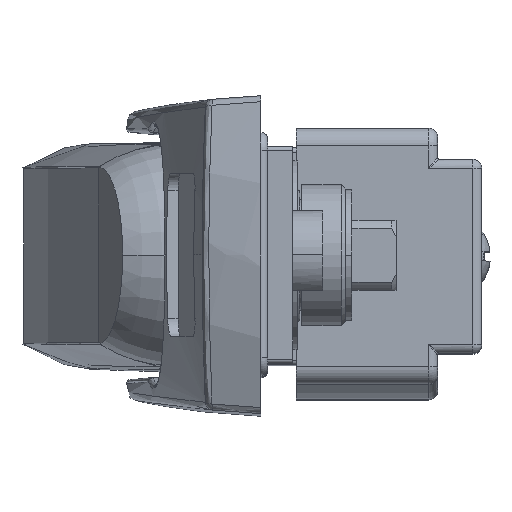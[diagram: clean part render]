
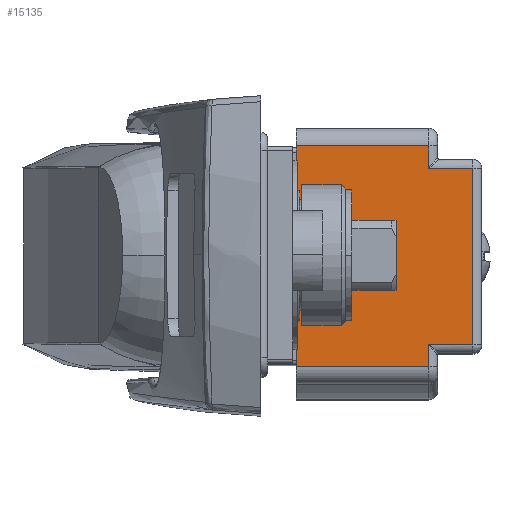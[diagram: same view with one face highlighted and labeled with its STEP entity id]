
A CAD part, top view. The second image highlights one B-rep face of the part: STEP entity #15135.
In plain terms, the highlighted planar face has unit normal (0, 0, 1) as drawn and (-1, 0, 0) by its records, which use the part's own axes.
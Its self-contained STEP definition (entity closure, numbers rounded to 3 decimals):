
#363 = EDGE_CURVE ( 'NONE', #1784, #15096, #2884, .T. ) ;
#983 = CARTESIAN_POINT ( 'NONE',  ( -27.3, -9.15, 16. ) ) ;
#1371 = EDGE_CURVE ( 'NONE', #24375, #19018, #5930, .T. ) ;
#1412 = DIRECTION ( 'NONE',  ( 0., 1., 0. ) ) ;
#1679 = EDGE_CURVE ( 'NONE', #19018, #1784, #19681, .T. ) ;
#1784 = VERTEX_POINT ( 'NONE', #12605 ) ;
#2005 = VERTEX_POINT ( 'NONE', #5707 ) ;
#2884 = LINE ( 'NONE', #25073, #3119 ) ;
#2909 = EDGE_CURVE ( 'NONE', #11069, #26153, #10286, .T. ) ;
#3102 = EDGE_CURVE ( 'NONE', #11069, #2005, #10233, .T. ) ;
#3119 = VECTOR ( 'NONE', #23969, 1000. ) ;
#4087 = EDGE_CURVE ( 'NONE', #2005, #14110, #22731, .T. ) ;
#4392 = ORIENTED_EDGE ( 'NONE', *, *, #1679, .T. ) ;
#4419 = EDGE_CURVE ( 'NONE', #14110, #24375, #18349, .T. ) ;
#4880 = ORIENTED_EDGE ( 'NONE', *, *, #363, .T. ) ;
#5140 = EDGE_CURVE ( 'NONE', #15096, #26153, #20045, .T. ) ;
#5334 = DIRECTION ( 'NONE',  ( 0., 0., 1. ) ) ;
#5547 = ORIENTED_EDGE ( 'NONE', *, *, #2909, .F. ) ;
#5707 = CARTESIAN_POINT ( 'NONE',  ( -27.3, -9.15, 15. ) ) ;
#5930 = LINE ( 'NONE', #21355, #21003 ) ;
#5983 = ORIENTED_EDGE ( 'NONE', *, *, #4087, .T. ) ;
#7681 = FACE_OUTER_BOUND ( 'NONE', #17575, .T. ) ;
#7722 = CARTESIAN_POINT ( 'NONE',  ( -27.3, -11.65, 15. ) ) ;
#7906 = DIRECTION ( 'NONE',  ( 0., 0., -1. ) ) ;
#8128 = DIRECTION ( 'NONE',  ( 0., 1., 0. ) ) ;
#8549 = CARTESIAN_POINT ( 'NONE',  ( -27.3, -11.65, 16. ) ) ;
#9179 = DIRECTION ( 'NONE',  ( 0., 1., 0. ) ) ;
#9207 = CARTESIAN_POINT ( 'NONE',  ( -27.3, -11.65, 15. ) ) ;
#9309 = VECTOR ( 'NONE', #9179, 1000. ) ;
#9388 = VECTOR ( 'NONE', #7906, 1000. ) ;
#9553 = DIRECTION ( 'NONE',  ( 0., 0., -1. ) ) ;
#9570 = DIRECTION ( 'NONE',  ( 1., 0., 0. ) ) ;
#9638 = CARTESIAN_POINT ( 'NONE',  ( -27.3, -11.65, 16. ) ) ;
#9752 = CARTESIAN_POINT ( 'NONE',  ( -27.3, 13.35, 0. ) ) ;
#9816 = PLANE ( 'NONE',  #18159 ) ;
#10233 = LINE ( 'NONE', #9207, #9309 ) ;
#10286 = LINE ( 'NONE', #8549, #9388 ) ;
#10462 = ORIENTED_EDGE ( 'NONE', *, *, #4419, .T. ) ;
#11069 = VERTEX_POINT ( 'NONE', #11673 ) ;
#11432 = CARTESIAN_POINT ( 'NONE',  ( -27.3, -11.65, 20. ) ) ;
#11673 = CARTESIAN_POINT ( 'NONE',  ( -27.3, -11.65, 15. ) ) ;
#12075 = ORIENTED_EDGE ( 'NONE', *, *, #5140, .T. ) ;
#12261 = ORIENTED_EDGE ( 'NONE', *, *, #1371, .T. ) ;
#12605 = CARTESIAN_POINT ( 'NONE',  ( -27.3, 13.35, 15. ) ) ;
#14110 = VERTEX_POINT ( 'NONE', #23637 ) ;
#15096 = VERTEX_POINT ( 'NONE', #9752 ) ;
#15135 = ADVANCED_FACE ( 'NONE', ( #7681 ), #9816, .F. ) ;
#17575 = EDGE_LOOP ( 'NONE', ( #12261, #4392, #4880, #12075, #5547, #20436, #5983, #10462 ) ) ;
#17758 = DIRECTION ( 'NONE',  ( 0., 0., -1. ) ) ;
#18159 = AXIS2_PLACEMENT_3D ( 'NONE', #9638, #9570, #9553 ) ;
#18349 = LINE ( 'NONE', #11432, #18693 ) ;
#18693 = VECTOR ( 'NONE', #1412, 1000. ) ;
#18847 = CARTESIAN_POINT ( 'NONE',  ( -27.3, 10.85, 15. ) ) ;
#19018 = VERTEX_POINT ( 'NONE', #18847 ) ;
#19089 = CARTESIAN_POINT ( 'NONE',  ( -27.3, 10.85, 20. ) ) ;
#19348 = VECTOR ( 'NONE', #8128, 1000. ) ;
#19681 = LINE ( 'NONE', #7722, #19348 ) ;
#19760 = VECTOR ( 'NONE', #25440, 1000. ) ;
#20045 = LINE ( 'NONE', #25062, #19760 ) ;
#20436 = ORIENTED_EDGE ( 'NONE', *, *, #3102, .T. ) ;
#21003 = VECTOR ( 'NONE', #17758, 1000. ) ;
#21080 = CARTESIAN_POINT ( 'NONE',  ( -27.3, -11.65, 0. ) ) ;
#21355 = CARTESIAN_POINT ( 'NONE',  ( -27.3, 10.85, 16. ) ) ;
#22671 = VECTOR ( 'NONE', #5334, 1000. ) ;
#22731 = LINE ( 'NONE', #983, #22671 ) ;
#23637 = CARTESIAN_POINT ( 'NONE',  ( -27.3, -9.15, 20. ) ) ;
#23969 = DIRECTION ( 'NONE',  ( 0., 0., -1. ) ) ;
#24375 = VERTEX_POINT ( 'NONE', #19089 ) ;
#25062 = CARTESIAN_POINT ( 'NONE',  ( -27.3, -11.65, 0. ) ) ;
#25073 = CARTESIAN_POINT ( 'NONE',  ( -27.3, 13.35, 16. ) ) ;
#25440 = DIRECTION ( 'NONE',  ( 0., -1., 0. ) ) ;
#26153 = VERTEX_POINT ( 'NONE', #21080 ) ;
